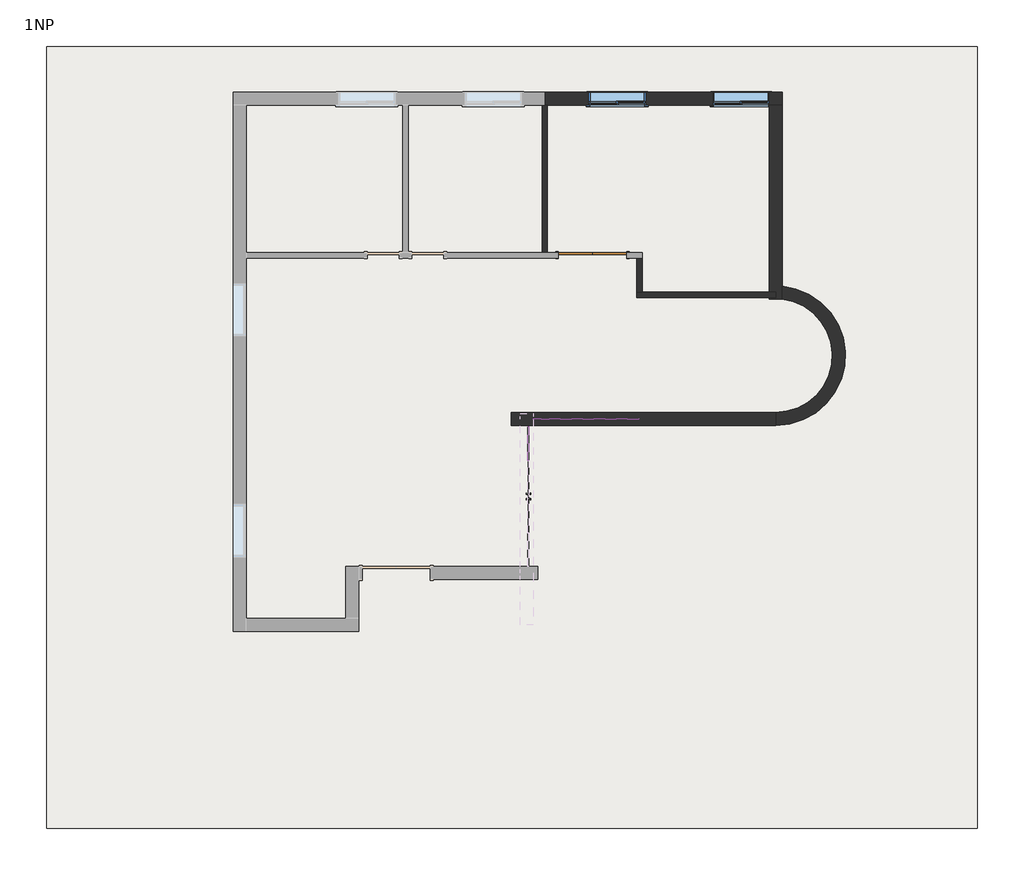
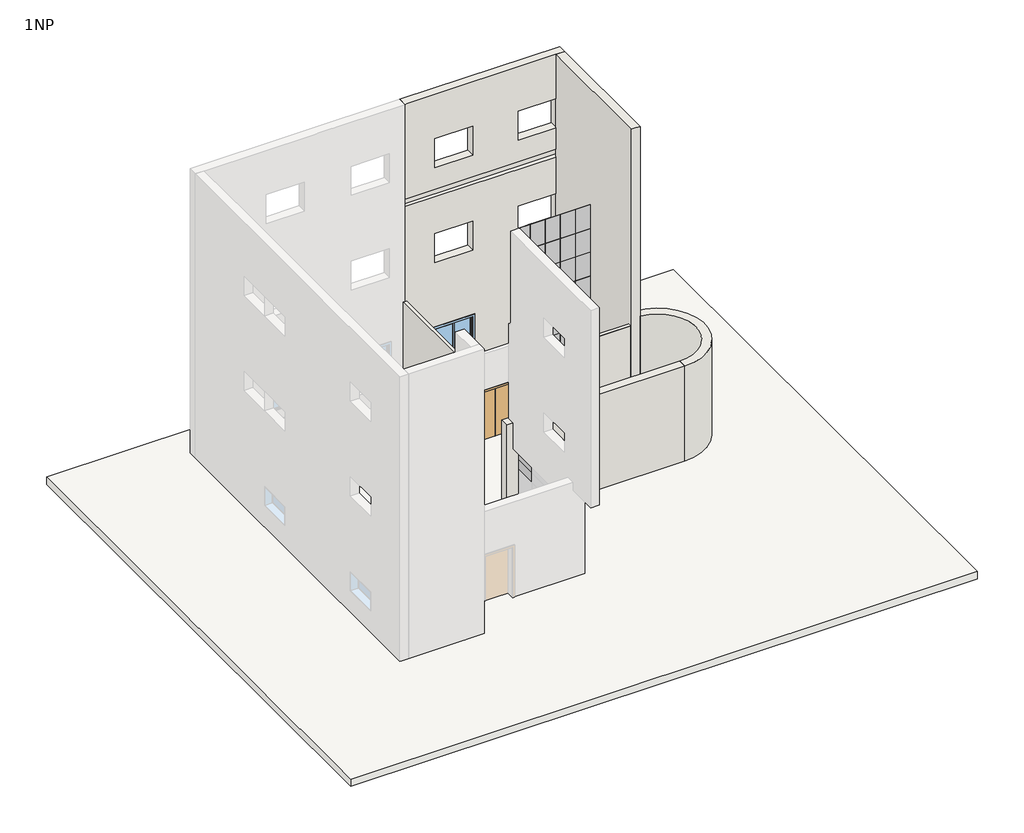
# One storey, part 2 of 2: 38 plates, 7 walls, 2 windows, 1 door, 1 slab.
"""IFC4 building model written with IfcOpenShell, lengths in millimetres."""

from ifc_helpers import new_model, si_unit, point, frame, frame_2d, origin, origin_with_axes, place, context, project, spatial, polyline, circle_curve, trimmed, segment, composite_curve, outline, extrude, faceted_brep, transform, mapped, element, save
from ifc_brep_helpers import plane_surface, revolved_surface, advanced_brep
from components import m_double_flush_1830_x_2083mm_7a28c534, system_panel_glazed_c3ce6646, system_panel_glazed_e6f66e58, system_panel_glazed_1cea1c28, system_panel_glazed_9e0dc01b, m_sliding_with_trim_1830_x_1220mm_f8e2f31e

model = new_model("IFC4")

# Units and contexts
model_context = context("Model", 3, world=origin())
ifc_project = project(units=[si_unit("LENGTHUNIT", "METRE", prefix="MILLI")], contexts=[model_context])

# Site, building, storey
site = spatial("IfcSite", under=ifc_project)
building = spatial("IfcBuilding", under=site)
storey = spatial("IfcBuildingStorey", under=building, Name="1NP", Elevation=0.0)

# Door
placement = place(None, origin())
m_double_flush_1830_x_2083mm_shape = m_double_flush_1830_x_2083mm_7a28c534(model_context)
element("IfcDoor", 1, ObjectType="M_Double-Flush : 1830 x 2083mm", at=placement, inside=storey, context=model_context, shape_type="MappedRepresentation", body=[
    mapped(m_double_flush_1830_x_2083mm_shape, transform((2118.243045, 5680.8503657, 0.0), x_axis=(0.9999999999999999, 0.0, 0.0), y_axis=(0.0, 0.9999999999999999, 0.0), z_axis=(0.0, 0.0, 1.0))),
])

# Plates
system_panel_glazed_shape = system_panel_glazed_c3ce6646(model_context)
element("IfcPlate", 2, ObjectType="System Panel : Glazed", at=placement, inside=storey, context=model_context, shape_type="MappedRepresentation", body=[
    mapped(system_panel_glazed_shape, transform((1257.3775179, 1249.8026806, 5000.0), x_axis=(1.0, 0.0, 0.0), y_axis=(0.0, 1.0, 0.0), z_axis=(0.0, 0.0, 1.0))),
])
element("IfcPlate", 3, ObjectType="System Panel : Glazed", at=placement, inside=storey, context=model_context, shape_type="MappedRepresentation", body=[
    mapped(system_panel_glazed_shape, transform((1857.3775179, 1249.8026806, 5000.0), x_axis=(1.0, 0.0, 0.0), y_axis=(0.0, 1.0, 0.0), z_axis=(0.0, 0.0, 1.0))),
])
element("IfcPlate", 4, ObjectType="System Panel : Glazed", at=placement, inside=storey, context=model_context, shape_type="MappedRepresentation", body=[
    mapped(system_panel_glazed_shape, transform((2457.3775179, 1249.8026806, 5000.0), x_axis=(1.0, 0.0, 0.0), y_axis=(0.0, 1.0, 0.0), z_axis=(0.0, 0.0, 1.0))),
])
element("IfcPlate", 5, ObjectType="System Panel : Glazed", at=placement, inside=storey, context=model_context, shape_type="MappedRepresentation", body=[
    mapped(system_panel_glazed_shape, transform((1257.3775179, 1249.8026806, 6000.0), x_axis=(1.0, 0.0, 0.0), y_axis=(0.0, 1.0, 0.0), z_axis=(0.0, 0.0, 1.0))),
])
element("IfcPlate", 6, ObjectType="System Panel : Glazed", at=placement, inside=storey, context=model_context, shape_type="MappedRepresentation", body=[
    mapped(system_panel_glazed_shape, transform((1857.3775179, 1249.8026806, 6000.0), x_axis=(1.0, 0.0, 0.0), y_axis=(0.0, 1.0, 0.0), z_axis=(0.0, 0.0, 1.0))),
])
element("IfcPlate", 7, ObjectType="System Panel : Glazed", at=placement, inside=storey, context=model_context, shape_type="MappedRepresentation", body=[
    mapped(system_panel_glazed_shape, transform((2457.3775179, 1249.8026806, 6000.0), x_axis=(1.0, 0.0, 0.0), y_axis=(0.0, 1.0, 0.0), z_axis=(0.0, 0.0, 1.0))),
])
element("IfcPlate", 8, ObjectType="System Panel : Glazed", at=placement, inside=storey, context=model_context, shape_type="MappedRepresentation", body=[
    mapped(system_panel_glazed_shape, transform((1257.3775179, 1249.8026806, 7000.0), x_axis=(1.0, 0.0, 0.0), y_axis=(0.0, 1.0, 0.0), z_axis=(0.0, 0.0, 1.0))),
])
element("IfcPlate", 9, ObjectType="System Panel : Glazed", at=placement, inside=storey, context=model_context, shape_type="MappedRepresentation", body=[
    mapped(system_panel_glazed_shape, transform((1857.3775179, 1249.8026806, 7000.0), x_axis=(1.0, 0.0, 0.0), y_axis=(0.0, 1.0, 0.0), z_axis=(0.0, 0.0, 1.0))),
])
element("IfcPlate", 10, ObjectType="System Panel : Glazed", at=placement, inside=storey, context=model_context, shape_type="MappedRepresentation", body=[
    mapped(system_panel_glazed_shape, transform((2457.3775179, 1249.8026806, 7000.0), x_axis=(1.0, 0.0, 0.0), y_axis=(0.0, 1.0, 0.0), z_axis=(0.0, 0.0, 1.0))),
])
element("IfcPlate", 11, ObjectType="System Panel : Glazed", at=placement, inside=storey, context=model_context, shape_type="MappedRepresentation", body=[
    mapped(system_panel_glazed_shape, transform((1257.3775179, 1249.8026806, 8000.0), x_axis=(1.0, 0.0, 0.0), y_axis=(0.0, 1.0, 0.0), z_axis=(0.0, 0.0, 1.0))),
])
element("IfcPlate", 12, ObjectType="System Panel : Glazed", at=placement, inside=storey, context=model_context, shape_type="MappedRepresentation", body=[
    mapped(system_panel_glazed_shape, transform((1857.3775179, 1249.8026806, 8000.0), x_axis=(1.0, 0.0, 0.0), y_axis=(0.0, 1.0, 0.0), z_axis=(0.0, 0.0, 1.0))),
])
element("IfcPlate", 13, ObjectType="System Panel : Glazed", at=placement, inside=storey, context=model_context, shape_type="MappedRepresentation", body=[
    mapped(system_panel_glazed_shape, transform((2457.3775179, 1249.8026806, 8000.0), x_axis=(1.0, 0.0, 0.0), y_axis=(0.0, 1.0, 0.0), z_axis=(0.0, 0.0, 1.0))),
])
element("IfcPlate", 14, ObjectType="System Panel : Glazed", at=placement, inside=storey, context=model_context, shape_type="MappedRepresentation", body=[
    mapped(system_panel_glazed_shape, transform((1257.3775179, 1249.8026806, 9000.0), x_axis=(1.0, 0.0, 0.0), y_axis=(0.0, 1.0, 0.0), z_axis=(0.0, 0.0, 1.0))),
])
element("IfcPlate", 15, ObjectType="System Panel : Glazed", at=placement, inside=storey, context=model_context, shape_type="MappedRepresentation", body=[
    mapped(system_panel_glazed_shape, transform((1857.3775179, 1249.8026806, 9000.0), x_axis=(1.0, 0.0, 0.0), y_axis=(0.0, 1.0, 0.0), z_axis=(0.0, 0.0, 1.0))),
])
element("IfcPlate", 16, ObjectType="System Panel : Glazed", at=placement, inside=storey, context=model_context, shape_type="MappedRepresentation", body=[
    mapped(system_panel_glazed_shape, transform((2457.3775179, 1249.8026806, 9000.0), x_axis=(1.0, 0.0, 0.0), y_axis=(0.0, 1.0, 0.0), z_axis=(0.0, 0.0, 1.0))),
])
element("IfcPlate", 17, ObjectType="System Panel : Glazed", at=placement, inside=storey, context=model_context, shape_type="MappedRepresentation", body=[
    mapped(system_panel_glazed_shape, transform((1257.3775179, 1249.8026806, 10000.0), x_axis=(1.0, 0.0, 0.0), y_axis=(0.0, 1.0, 0.0), z_axis=(0.0, 0.0, 1.0))),
])
element("IfcPlate", 18, ObjectType="System Panel : Glazed", at=placement, inside=storey, context=model_context, shape_type="MappedRepresentation", body=[
    mapped(system_panel_glazed_shape, transform((1857.3775179, 1249.8026806, 10000.0), x_axis=(1.0, 0.0, 0.0), y_axis=(0.0, 1.0, 0.0), z_axis=(0.0, 0.0, 1.0))),
])
element("IfcPlate", 19, ObjectType="System Panel : Glazed", at=placement, inside=storey, context=model_context, shape_type="MappedRepresentation", body=[
    mapped(system_panel_glazed_shape, transform((2457.3775179, 1249.8026806, 10000.0), x_axis=(1.0, 0.0, 0.0), y_axis=(0.0, 1.0, 0.0), z_axis=(0.0, 0.0, 1.0))),
])
element("IfcPlate", 20, ObjectType="System Panel : Glazed", at=placement, inside=storey, context=model_context, shape_type="MappedRepresentation", body=[
    mapped(system_panel_glazed_shape, transform((1257.3775179, 1249.8026806, 11000.0), x_axis=(1.0, 0.0, 0.0), y_axis=(0.0, 1.0, 0.0), z_axis=(0.0, 0.0, 1.0))),
])
element("IfcPlate", 21, ObjectType="System Panel : Glazed", at=placement, inside=storey, context=model_context, shape_type="MappedRepresentation", body=[
    mapped(system_panel_glazed_shape, transform((1857.3775179, 1249.8026806, 11000.0), x_axis=(1.0, 0.0, 0.0), y_axis=(0.0, 1.0, 0.0), z_axis=(0.0, 0.0, 1.0))),
])
element("IfcPlate", 22, ObjectType="System Panel : Glazed", at=placement, inside=storey, context=model_context, shape_type="MappedRepresentation", body=[
    mapped(system_panel_glazed_shape, transform((2457.3775179, 1249.8026806, 11000.0), x_axis=(1.0, 0.0, 0.0), y_axis=(0.0, 1.0, 0.0), z_axis=(0.0, 0.0, 1.0))),
])
element("IfcPlate", 23, ObjectType="System Panel : Glazed", at=placement, inside=storey, context=model_context, shape_type="MappedRepresentation", body=[
    mapped(system_panel_glazed_shape, transform((3057.3775179, 1249.8026806, 4000.0), x_axis=(1.0, 0.0, 0.0), y_axis=(0.0, 1.0, 0.0), z_axis=(0.0, 0.0, 1.0))),
])
element("IfcPlate", 24, ObjectType="System Panel : Glazed", at=placement, inside=storey, context=model_context, shape_type="MappedRepresentation", body=[
    mapped(system_panel_glazed_shape, transform((3057.3775179, 1249.8026806, 5000.0), x_axis=(1.0, 0.0, 0.0), y_axis=(0.0, 1.0, 0.0), z_axis=(0.0, 0.0, 1.0))),
])
element("IfcPlate", 25, ObjectType="System Panel : Glazed", at=placement, inside=storey, context=model_context, shape_type="MappedRepresentation", body=[
    mapped(system_panel_glazed_shape, transform((3057.3775179, 1249.8026806, 6000.0), x_axis=(1.0, 0.0, 0.0), y_axis=(0.0, 1.0, 0.0), z_axis=(0.0, 0.0, 1.0))),
])
element("IfcPlate", 26, ObjectType="System Panel : Glazed", at=placement, inside=storey, context=model_context, shape_type="MappedRepresentation", body=[
    mapped(system_panel_glazed_shape, transform((3057.3775179, 1249.8026806, 7000.0), x_axis=(1.0, 0.0, 0.0), y_axis=(0.0, 1.0, 0.0), z_axis=(0.0, 0.0, 1.0))),
])
element("IfcPlate", 27, ObjectType="System Panel : Glazed", at=placement, inside=storey, context=model_context, shape_type="MappedRepresentation", body=[
    mapped(system_panel_glazed_shape, transform((3057.3775179, 1249.8026806, 8000.0), x_axis=(1.0, 0.0, 0.0), y_axis=(0.0, 1.0, 0.0), z_axis=(0.0, 0.0, 1.0))),
])
element("IfcPlate", 28, ObjectType="System Panel : Glazed", at=placement, inside=storey, context=model_context, shape_type="MappedRepresentation", body=[
    mapped(system_panel_glazed_shape, transform((3057.3775179, 1249.8026806, 9000.0), x_axis=(1.0, 0.0, 0.0), y_axis=(0.0, 1.0, 0.0), z_axis=(0.0, 0.0, 1.0))),
])
element("IfcPlate", 29, ObjectType="System Panel : Glazed", at=placement, inside=storey, context=model_context, shape_type="MappedRepresentation", body=[
    mapped(system_panel_glazed_shape, transform((3057.3775179, 1249.8026806, 10000.0), x_axis=(1.0, 0.0, 0.0), y_axis=(0.0, 1.0, 0.0), z_axis=(0.0, 0.0, 1.0))),
])
element("IfcPlate", 30, ObjectType="System Panel : Glazed", at=placement, inside=storey, context=model_context, shape_type="MappedRepresentation", body=[
    mapped(system_panel_glazed_shape, transform((3057.3775179, 1249.8026806, 11000.0), x_axis=(1.0, 0.0, 0.0), y_axis=(0.0, 1.0, 0.0), z_axis=(0.0, 0.0, 1.0))),
])
system_panel_glazed_2_shape = system_panel_glazed_e6f66e58(model_context)
element("IfcPlate", 31, ObjectType="System Panel : Glazed", at=placement, inside=storey, context=model_context, shape_type="MappedRepresentation", body=[
    mapped(system_panel_glazed_2_shape, transform((357.3775179, 624.8026806, 2000.0), x_axis=(0.0, 1.0, 0.0), y_axis=(-1.0, 0.0, 0.0), z_axis=(0.0, 0.0, 1.0))),
])
system_panel_glazed_3_shape = system_panel_glazed_1cea1c28(model_context)
element("IfcPlate", 32, ObjectType="System Panel : Glazed", at=placement, inside=storey, context=model_context, shape_type="MappedRepresentation", body=[
    mapped(system_panel_glazed_3_shape, transform((357.3775179, 624.8026806, 2400.0), x_axis=(0.0, 1.0, 0.0), y_axis=(-1.0, 0.0, 0.0), z_axis=(0.0, 0.0, 1.0))),
])
system_panel_glazed_4_shape = system_panel_glazed_9e0dc01b(model_context)
element("IfcPlate", 33, ObjectType="System Panel : Glazed", at=placement, inside=storey, context=model_context, shape_type="MappedRepresentation", body=[
    mapped(system_panel_glazed_4_shape, transform((744.8775179, 1249.8026806, 5000.0), x_axis=(1.0, 0.0, 0.0), y_axis=(0.0, 1.0, 0.0), z_axis=(0.0, 0.0, 1.0))),
])
element("IfcPlate", 34, ObjectType="System Panel : Glazed", at=placement, inside=storey, context=model_context, shape_type="MappedRepresentation", body=[
    mapped(system_panel_glazed_4_shape, transform((744.8775179, 1249.8026806, 6000.0), x_axis=(1.0, 0.0, 0.0), y_axis=(0.0, 1.0, 0.0), z_axis=(0.0, 0.0, 1.0))),
])
element("IfcPlate", 35, ObjectType="System Panel : Glazed", at=placement, inside=storey, context=model_context, shape_type="MappedRepresentation", body=[
    mapped(system_panel_glazed_4_shape, transform((744.8775179, 1249.8026806, 7000.0), x_axis=(1.0, 0.0, 0.0), y_axis=(0.0, 1.0, 0.0), z_axis=(0.0, 0.0, 1.0))),
])
element("IfcPlate", 36, ObjectType="System Panel : Glazed", at=placement, inside=storey, context=model_context, shape_type="MappedRepresentation", body=[
    mapped(system_panel_glazed_4_shape, transform((744.8775179, 1249.8026806, 8000.0), x_axis=(1.0, 0.0, 0.0), y_axis=(0.0, 1.0, 0.0), z_axis=(0.0, 0.0, 1.0))),
])
element("IfcPlate", 37, ObjectType="System Panel : Glazed", at=placement, inside=storey, context=model_context, shape_type="MappedRepresentation", body=[
    mapped(system_panel_glazed_4_shape, transform((744.8775179, 1249.8026806, 9000.0), x_axis=(1.0, 0.0, 0.0), y_axis=(0.0, 1.0, 0.0), z_axis=(0.0, 0.0, 1.0))),
])
element("IfcPlate", 38, ObjectType="System Panel : Glazed", at=placement, inside=storey, context=model_context, shape_type="MappedRepresentation", body=[
    mapped(system_panel_glazed_4_shape, transform((744.8775179, 1249.8026806, 10000.0), x_axis=(1.0, 0.0, 0.0), y_axis=(0.0, 1.0, 0.0), z_axis=(0.0, 0.0, 1.0))),
])
element("IfcPlate", 39, ObjectType="System Panel : Glazed", at=placement, inside=storey, context=model_context, shape_type="MappedRepresentation", body=[
    mapped(system_panel_glazed_4_shape, transform((744.8775179, 1249.8026806, 11000.0), x_axis=(1.0, 0.0, 0.0), y_axis=(0.0, 1.0, 0.0), z_axis=(0.0, 0.0, 1.0))),
])

# Slab
element("IfcSlab", 40, ObjectType="Generic 300mm", at=placement, inside=storey, context=model_context, shape_type="SweptSolid", body=[
    extrude(outline(polyline([(12456.1188993, 11292.3429374), (12456.1188993, -9707.6570626), (-12543.8811007, -9707.6570626), (-12543.8811007, 11292.3429374), (12456.1188993, 11292.3429374)])), frame((0.0, 0.0, -300.0), z_axis=(0.0, 0.0, 1.0), x_axis=(1.0, 0.0, 0.0)), (0.0, 0.0, 1.0), 300.0),
])

# Walls
element("IfcWall", 41, ObjectType="Exterior - Brick on Mtl. Stud", at=placement, inside=storey, context=model_context, shape_type="Brep", body=[
    faceted_brep([(7208.993045, 10061.6003657, 0.0), (833.993045, 10061.6003657, 0.0), (833.993045, 10061.6003657, 12000.0), (7208.993045, 10061.6003657, 12000.0), (5345.6922824, 10061.6003657, 6133.6), (5345.6922824, 10061.6003657, 4914.4), (6869.6922824, 10061.6003657, 4914.4), (6869.6922824, 10061.6003657, 6133.6), (2019.6922824, 10061.6003657, 6133.6), (2019.6922824, 10061.6003657, 4914.4), (3543.6922824, 10061.6003657, 4914.4), (3543.6922824, 10061.6003657, 6133.6), (5345.6922824, 10061.6003657, 10133.6), (5345.6922824, 10061.6003657, 8914.4), (6869.6922824, 10061.6003657, 8914.4), (6869.6922824, 10061.6003657, 10133.6), (2019.6922824, 10061.6003657, 10133.6), (2019.6922824, 10061.6003657, 8914.4), (3543.6922824, 10061.6003657, 8914.4), (3543.6922824, 10061.6003657, 10133.6), (5345.6922824, 10061.6003657, 2133.6), (5345.6922824, 10061.6003657, 914.4), (6869.6922824, 10061.6003657, 914.4), (6869.6922824, 10061.6003657, 2133.6), (2019.6922824, 10061.6003657, 2133.6), (2019.6922824, 10061.6003657, 914.4), (3543.6922824, 10061.6003657, 914.4), (3543.6922824, 10061.6003657, 2133.6), (833.993045, 9711.6003657, 0.0), (903.243045, 9711.6003657, 0.0), (6858.993045, 9711.6003657, 0.0), (7208.993045, 9711.6003657, 0.0), (7208.993045, 9711.6003657, 12000.0), (6858.993045, 9711.6003657, 12000.0), (903.243045, 9711.6003657, 12000.0), (833.993045, 9711.6003657, 12000.0), (833.993045, 9711.6003657, 8000.0), (903.243045, 9711.6003657, 8000.0), (7023.993045, 9711.6003657, 8000.0), (7023.993045, 9711.6003657, 7680.0), (833.993045, 9711.6003657, 7680.0), (5345.6922824, 9711.6003657, 4914.4), (5345.6922824, 9711.6003657, 6133.6), (6869.6922824, 9711.6003657, 6133.6), (6869.6922824, 9711.6003657, 4914.4), (2019.6922824, 9711.6003657, 4914.4), (2019.6922824, 9711.6003657, 6133.6), (3543.6922824, 9711.6003657, 6133.6), (3543.6922824, 9711.6003657, 4914.4), (5345.6922824, 9711.6003657, 8914.4), (5345.6922824, 9711.6003657, 10133.6), (6869.6922824, 9711.6003657, 10133.6), (6869.6922824, 9711.6003657, 8914.4), (2019.6922824, 9711.6003657, 8914.4), (2019.6922824, 9711.6003657, 10133.6), (3543.6922824, 9711.6003657, 10133.6), (3543.6922824, 9711.6003657, 8914.4), (5345.6922824, 9711.6003657, 914.4), (5345.6922824, 9711.6003657, 2133.6), (6869.6922824, 9711.6003657, 2133.6), (6869.6922824, 9711.6003657, 914.4), (2019.6922824, 9711.6003657, 914.4), (2019.6922824, 9711.6003657, 2133.6), (3543.6922824, 9711.6003657, 2133.6), (3543.6922824, 9711.6003657, 914.4), (833.993045, 9876.6003657, 7680.0), (833.993045, 9876.6003657, 8000.0), (7023.993045, 9876.6003657, 7680.0), (7023.993045, 9876.6003657, 8000.0)], [[[0, 1, 2, 3], [4, 5, 6, 7], [8, 9, 10, 11], [12, 13, 14, 15], [16, 17, 18, 19], [20, 21, 22, 23], [24, 25, 26, 27]], [[28, 29, 30, 31, 32, 33, 34, 35, 36, 37, 38, 39, 40], [41, 42, 43, 44], [45, 46, 47, 48], [49, 50, 51, 52], [53, 54, 55, 56], [57, 58, 59, 60], [61, 62, 63, 64]], [[1, 0, 31, 30, 29, 28]], [[3, 2, 35, 34, 33, 32]], [[0, 3, 32, 31]], [[1, 28, 40, 65, 66, 36, 35, 2]], [[5, 4, 42, 41]], [[6, 5, 41, 44]], [[7, 6, 44, 43]], [[4, 7, 43, 42]], [[9, 8, 46, 45]], [[10, 9, 45, 48]], [[11, 10, 48, 47]], [[8, 11, 47, 46]], [[13, 12, 50, 49]], [[14, 13, 49, 52]], [[15, 14, 52, 51]], [[12, 15, 51, 50]], [[17, 16, 54, 53]], [[18, 17, 53, 56]], [[19, 18, 56, 55]], [[16, 19, 55, 54]], [[21, 20, 58, 57]], [[22, 21, 57, 60]], [[23, 22, 60, 59]], [[20, 23, 59, 58]], [[25, 24, 62, 61]], [[26, 25, 61, 64]], [[27, 26, 64, 63]], [[24, 27, 63, 62]], [[39, 67, 65, 40]], [[66, 68, 38, 37, 36]], [[67, 68, 66, 65]], [[68, 67, 39, 38]]]),
])
element("IfcWall", 42, ObjectType="Exterior - Brick on Mtl. Stud", at=placement, inside=storey, context=model_context, shape_type="AdvancedBrep", body=[
    advanced_brep(
    [(6858.993045, 9711.6003657, 0.0), (6858.993045, 4501.5261065, 0.0), (6858.993045, 4501.5261065, 12000.0), (6858.993045, 9711.6003657, 12000.0), (7208.993045, 9711.6003657, 0.0), (7208.993045, 9711.6003657, 12000.0), (7208.993045, 4501.5261065, 12000.0), (7208.993045, 4501.5261065, 4000.0), (7208.993045, 4501.5261065, 0.0), (7208.993045, 4853.415836, 0.0)],
    [
        (0, 1),
        (1, 2),
        (2, 3),
        (3, 0),
        (4, 5),
        (5, 6),
        (6, 7),
        (7, 8),
        (8, 9),
        (9, 4),
        (0, 4),
        (8, 1, circle_curve(frame((7033.993045, 2986.6003657, 0.0), z_axis=(0.0, 0.0, 1.0), x_axis=(1.0, 0.0, 0.0)), 1525.0)),
        (2, 6, circle_curve(frame((7033.993045, 2986.6003657, 12000.0), z_axis=(0.0, 0.0, -1.0), x_axis=(1.0, 0.0, 0.0)), 1525.0)),
        (5, 3),
    ],
    [
        plane_surface(frame((6858.993045, 9719.3239111, 0.0), z_axis=(-1.0, 0.0, 0.0), x_axis=(0.0, -1.0, 0.0))),
        plane_surface(frame((7208.993045, 9719.3239111, 0.0), z_axis=(1.0, 0.0, 0.0), x_axis=(0.0, 1.0, 0.0))),
        plane_surface(frame((6858.993045, 9886.6003657, 0.0), z_axis=(0.0, 0.0, -1.0), x_axis=(1.0, 0.0, 0.0))),
        plane_surface(frame((6858.993045, 4686.6003657, 12000.0), z_axis=(0.0, 0.0, 1.0), x_axis=(1.0, 0.0, 0.0))),
        revolved_surface(polyline([(8558.993045, 2986.6003657, 0.0), (8558.993045, 2986.6003657, 12000.0)]), (7033.993045, 2986.6003657, 0.0), (0.0, 0.0, -1.0)),
        plane_surface(frame((7044.6922824, 9711.6003657, 0.0), z_axis=(0.0, 1.0, 0.0), x_axis=(1.0, 0.0, 0.0))),
    ],
    [
        (0, [[1, 2, 3, 4]]),
        (1, [[5, 6, 7, 8, 9, 10]]),
        (2, [[-1, 11, -10, -9, 12]]),
        (3, [[-3, 13, -6, 14]]),
        (4, [[-2, -12, -8, -7, -13]]),
        (5, [[-4, -14, -5, -11]]),
    ],
),
])
element("IfcWall", 43, ObjectType="Exterior - Brick on Mtl. Stud", at=placement, inside=storey, context=model_context, shape_type="SweptSolid", body=[
    extrude(outline(composite_curve([segment(polyline([(7033.993045, 1111.6003657), (7033.993045, 1461.6003657)]), True, "CONTINUOUS"), segment(trimmed(circle_curve(frame_2d((7033.993045, 2986.6003657)), 1525.0), [point((7033.993045, 1461.6003657))], [point((7208.993045, 4501.5261065))], True, "CARTESIAN"), True, "CONTINUOUS"), segment(polyline([(7208.993045, 4501.5261065), (7208.993045, 4853.415836)]), True, "CONTINUOUS"), segment(trimmed(circle_curve(frame_2d((7033.993045, 2986.6003657)), 1875.0), [point((7208.993045, 4853.415836))], [point((7033.993045, 1111.6003657))], False, "CARTESIAN"), True, "CONTINUOUS")], self_intersect=False)), origin_with_axes(), (0.0, 0.0, 1.0), 4000.0),
])
element("IfcWall", 44, ObjectType="Exterior - Brick on Mtl. Stud", at=placement, inside=storey, context=model_context, shape_type="SweptSolid", body=[
    extrude(outline(polyline([(-66.006955, 1461.6003657), (7033.993045, 1461.6003657), (7033.993045, 1111.6003657), (-66.006955, 1111.6003657), (-66.006955, 1461.6003657)])), origin_with_axes(), (0.0, 0.0, 1.0), 4000.0),
])
element("IfcWall", 45, ObjectType="Interior - 138mm Partition (1-hr)", at=placement, inside=storey, context=model_context, shape_type="Brep", body=[
    faceted_brep([(903.243045, 5750.1003657, 0.0), (903.243045, 9711.6003657, 0.0), (903.243045, 9711.6003657, 3680.0), (903.243045, 5750.1003657, 3680.0), (764.743045, 5750.1003657, 0.0), (764.743045, 5750.1003657, 3680.0), (764.743045, 9711.6003657, 3680.0), (764.743045, 9711.6003657, 0.0), (833.993045, 9711.6003657, 0.0)], [[[0, 1, 2, 3]], [[4, 5, 6, 7]], [[1, 0, 4, 7, 8]], [[2, 1, 8, 7, 6]], [[0, 3, 5, 4]], [[3, 2, 6, 5]]]),
])
element("IfcWall", 46, ObjectType="Interior - 138mm Partition (1-hr)", at=placement, inside=storey, context=model_context, shape_type="Brep", body=[
    faceted_brep([(7033.993045, 4690.0261065, 0.0), (3447.493045, 4690.0261065, 0.0), (3308.993045, 4690.0261065, 0.0), (3308.993045, 4690.0261065, 3680.0), (3447.493045, 4690.0261065, 3680.0), (7023.993045, 4690.0261065, 3680.0), (7033.993045, 4690.0261065, 3680.0), (7033.993045, 4551.5261065, 0.0), (7033.993045, 4551.5261065, 3680.0), (7023.993045, 4551.5261065, 3680.0), (3308.993045, 4551.5261065, 3680.0), (3308.993045, 4551.5261065, 0.0), (7033.993045, 4561.5261065, 3680.0), (3308.993045, 4561.5261065, 3680.0), (7023.993045, 4561.5261065, 3680.0)], [[[0, 1, 2, 3, 4, 5, 6]], [[7, 8, 9, 10, 11]], [[2, 1, 0, 7, 11]], [[0, 6, 12, 8, 7]], [[3, 2, 11, 10, 13]], [[13, 10, 9, 14]], [[6, 5, 14, 12]], [[14, 9, 8, 12]], [[5, 4, 3, 13, 14]]]),
])
element("IfcWall", 47, ObjectType="Interior - 138mm Partition (1-hr)", at=placement, inside=storey, context=model_context, shape_type="SweptSolid", body=[
    extrude(outline(polyline([(3447.493045, 5611.6003657), (3447.493045, 4690.0261065), (3308.993045, 4690.0261065), (3308.993045, 5611.6003657), (3447.493045, 5611.6003657)])), origin_with_axes(), (0.0, 0.0, 1.0), 3680.0),
])

# Windows
m_sliding_with_trim_1830_x_1220mm_shape = m_sliding_with_trim_1830_x_1220mm_f8e2f31e(model_context)
element("IfcWindow", 48, ObjectType="M_Sliding with Trim : 1830 x 1220mm", at=placement, inside=storey, context=model_context, shape_type="MappedRepresentation", body=[
    mapped(m_sliding_with_trim_1830_x_1220mm_shape, transform((6107.6922824, 9886.6003657, 0.0), x_axis=(-1.0, 0.0, 0.0), y_axis=(0.0, -1.0, 0.0), z_axis=(0.0, 0.0, 1.0))),
])
element("IfcWindow", 49, ObjectType="M_Sliding with Trim : 1830 x 1220mm", at=placement, inside=storey, context=model_context, shape_type="MappedRepresentation", body=[
    mapped(m_sliding_with_trim_1830_x_1220mm_shape, transform((2781.6922824, 9886.6003657, 0.0), x_axis=(-1.0, 0.0, 0.0), y_axis=(0.0, -1.0, 0.0), z_axis=(0.0, 0.0, 1.0))),
])

save(model, "model.ifc")
